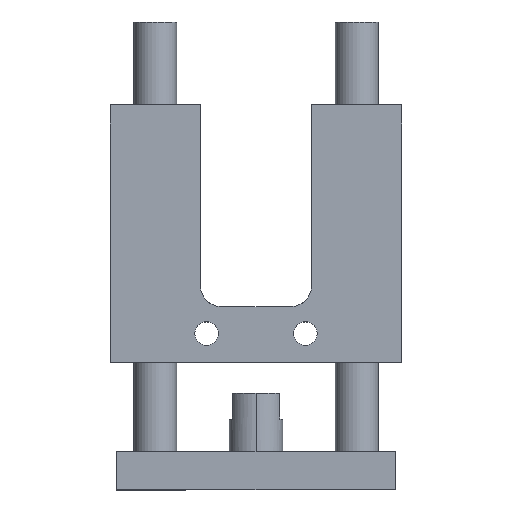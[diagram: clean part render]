
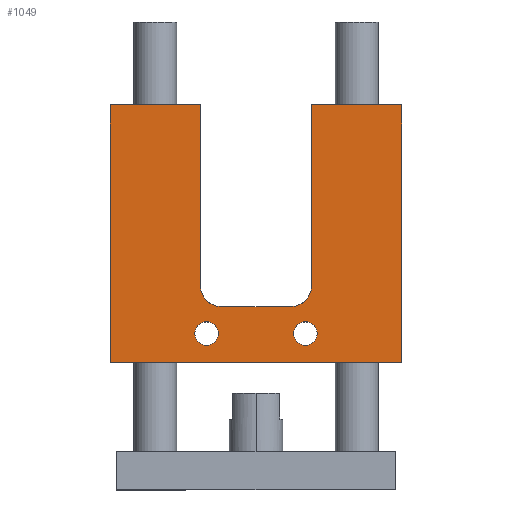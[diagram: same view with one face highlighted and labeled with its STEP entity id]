
A CAD part, top view. The second image highlights one B-rep face of the part: STEP entity #1049.
In plain terms, the highlighted planar face has unit normal (0, 0, 1).
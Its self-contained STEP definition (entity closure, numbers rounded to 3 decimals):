
#28 = VECTOR ( 'NONE', #2209, 1000. ) ;
#99 = AXIS2_PLACEMENT_3D ( 'NONE', #3711, #438, #462 ) ;
#111 = CARTESIAN_POINT ( 'NONE',  ( 0., 60., 30. ) ) ;
#114 = LINE ( 'NONE', #4428, #739 ) ;
#127 = ORIENTED_EDGE ( 'NONE', *, *, #2124, .T. ) ;
#178 = VERTEX_POINT ( 'NONE', #2185 ) ;
#190 = VERTEX_POINT ( 'NONE', #3649 ) ;
#247 = DIRECTION ( 'NONE',  ( -1., 0., 0. ) ) ;
#275 = CIRCLE ( 'NONE', #2193, 2.75 ) ;
#293 = EDGE_CURVE ( 'NONE', #178, #2310, #1925, .T. ) ;
#295 = ORIENTED_EDGE ( 'NONE', *, *, #3594, .T. ) ;
#358 = DIRECTION ( 'NONE',  ( 1., 0., 0. ) ) ;
#422 = CIRCLE ( 'NONE', #1186, 5. ) ;
#436 = LINE ( 'NONE', #4021, #28 ) ;
#438 = DIRECTION ( 'NONE',  ( 0., 0., 1. ) ) ;
#462 = DIRECTION ( 'NONE',  ( 1., 0., 0. ) ) ;
#588 = VECTOR ( 'NONE', #967, 1000. ) ;
#602 = VERTEX_POINT ( 'NONE', #111 ) ;
#656 = DIRECTION ( 'NONE',  ( 1., 0., 0. ) ) ;
#668 = CIRCLE ( 'NONE', #2339, 5. ) ;
#739 = VECTOR ( 'NONE', #1953, 1000. ) ;
#752 = CARTESIAN_POINT ( 'NONE',  ( 26., 18., 30. ) ) ;
#764 = LINE ( 'NONE', #2925, #1417 ) ;
#832 = ORIENTED_EDGE ( 'NONE', *, *, #4700, .T. ) ;
#845 = CARTESIAN_POINT ( 'NONE',  ( 45.5, 6.75, 30. ) ) ;
#865 = VERTEX_POINT ( 'NONE', #2824 ) ;
#894 = CIRCLE ( 'NONE', #2893, 2.75 ) ;
#897 = VERTEX_POINT ( 'NONE', #2162 ) ;
#921 = CARTESIAN_POINT ( 'NONE',  ( 0., 0., 30. ) ) ;
#927 = CARTESIAN_POINT ( 'NONE',  ( 68., 0., 30. ) ) ;
#967 = DIRECTION ( 'NONE',  ( -1., 0., 0. ) ) ;
#1049 = ADVANCED_FACE ( 'NONE', ( #1471, #2177, #3661 ), #4056, .F. ) ;
#1050 = EDGE_CURVE ( 'NONE', #602, #2899, #764, .T. ) ;
#1165 = DIRECTION ( 'NONE',  ( -1., 0., 0. ) ) ;
#1186 = AXIS2_PLACEMENT_3D ( 'NONE', #752, #3644, #4016 ) ;
#1276 = CARTESIAN_POINT ( 'NONE',  ( 0., 0., 30. ) ) ;
#1309 = DIRECTION ( 'NONE',  ( 1., 0., 0. ) ) ;
#1319 = LINE ( 'NONE', #2451, #588 ) ;
#1357 = LINE ( 'NONE', #1276, #1498 ) ;
#1365 = DIRECTION ( 'NONE',  ( 0., 0., 1. ) ) ;
#1417 = VECTOR ( 'NONE', #3322, 1000. ) ;
#1442 = EDGE_CURVE ( 'NONE', #190, #3659, #275, .T. ) ;
#1471 = FACE_BOUND ( 'NONE', #3751, .T. ) ;
#1498 = VECTOR ( 'NONE', #656, 1000. ) ;
#1635 = CARTESIAN_POINT ( 'NONE',  ( 21., 60., 30. ) ) ;
#1662 = EDGE_CURVE ( 'NONE', #2310, #178, #894, .T. ) ;
#1673 = ORIENTED_EDGE ( 'NONE', *, *, #1442, .F. ) ;
#1772 = EDGE_CURVE ( 'NONE', #4336, #897, #668, .T. ) ;
#1830 = ORIENTED_EDGE ( 'NONE', *, *, #1772, .T. ) ;
#1925 = CIRCLE ( 'NONE', #99, 2.75 ) ;
#1945 = EDGE_CURVE ( 'NONE', #3659, #190, #2738, .T. ) ;
#1953 = DIRECTION ( 'NONE',  ( -1., 0., 0. ) ) ;
#2063 = EDGE_CURVE ( 'NONE', #2899, #2983, #1357, .T. ) ;
#2070 = DIRECTION ( 'NONE',  ( 0., 0., -1. ) ) ;
#2071 = EDGE_CURVE ( 'NONE', #2983, #865, #3200, .T. ) ;
#2082 = DIRECTION ( 'NONE',  ( 0., 1., 0. ) ) ;
#2124 = EDGE_CURVE ( 'NONE', #3063, #4336, #2471, .T. ) ;
#2162 = CARTESIAN_POINT ( 'NONE',  ( 42., 13., 30. ) ) ;
#2177 = FACE_BOUND ( 'NONE', #3976, .T. ) ;
#2185 = CARTESIAN_POINT ( 'NONE',  ( 25.25, 6.75, 30. ) ) ;
#2193 = AXIS2_PLACEMENT_3D ( 'NONE', #2270, #3636, #358 ) ;
#2209 = DIRECTION ( 'NONE',  ( 0., 1., 0. ) ) ;
#2232 = ORIENTED_EDGE ( 'NONE', *, *, #4500, .T. ) ;
#2242 = DIRECTION ( 'NONE',  ( 0., 0., -1. ) ) ;
#2258 = AXIS2_PLACEMENT_3D ( 'NONE', #845, #2328, #3414 ) ;
#2270 = CARTESIAN_POINT ( 'NONE',  ( 45.5, 6.75, 30. ) ) ;
#2310 = VERTEX_POINT ( 'NONE', #3739 ) ;
#2328 = DIRECTION ( 'NONE',  ( 0., 0., 1. ) ) ;
#2339 = AXIS2_PLACEMENT_3D ( 'NONE', #2476, #2070, #247 ) ;
#2428 = CARTESIAN_POINT ( 'NONE',  ( 68., 0., 30. ) ) ;
#2451 = CARTESIAN_POINT ( 'NONE',  ( 21., 13., 30. ) ) ;
#2471 = LINE ( 'NONE', #4219, #4557 ) ;
#2476 = CARTESIAN_POINT ( 'NONE',  ( 42., 18., 30. ) ) ;
#2523 = ORIENTED_EDGE ( 'NONE', *, *, #1945, .F. ) ;
#2634 = CARTESIAN_POINT ( 'NONE',  ( 47., 18., 30. ) ) ;
#2738 = CIRCLE ( 'NONE', #2258, 2.75 ) ;
#2744 = LINE ( 'NONE', #3313, #3175 ) ;
#2769 = ORIENTED_EDGE ( 'NONE', *, *, #2063, .T. ) ;
#2824 = CARTESIAN_POINT ( 'NONE',  ( 68., 60., 30. ) ) ;
#2840 = CARTESIAN_POINT ( 'NONE',  ( 47., 60., 30. ) ) ;
#2893 = AXIS2_PLACEMENT_3D ( 'NONE', #4632, #1365, #1309 ) ;
#2899 = VERTEX_POINT ( 'NONE', #921 ) ;
#2925 = CARTESIAN_POINT ( 'NONE',  ( 0., 0., 30. ) ) ;
#2970 = EDGE_CURVE ( 'NONE', #897, #4419, #1319, .T. ) ;
#2983 = VERTEX_POINT ( 'NONE', #2428 ) ;
#3063 = VERTEX_POINT ( 'NONE', #2840 ) ;
#3175 = VECTOR ( 'NONE', #4194, 1000. ) ;
#3200 = LINE ( 'NONE', #927, #4698 ) ;
#3257 = ORIENTED_EDGE ( 'NONE', *, *, #2071, .T. ) ;
#3313 = CARTESIAN_POINT ( 'NONE',  ( 47., 60., 30. ) ) ;
#3322 = DIRECTION ( 'NONE',  ( 0., -1., 0. ) ) ;
#3327 = AXIS2_PLACEMENT_3D ( 'NONE', #4427, #2242, #1165 ) ;
#3365 = VERTEX_POINT ( 'NONE', #4581 ) ;
#3408 = VERTEX_POINT ( 'NONE', #1635 ) ;
#3414 = DIRECTION ( 'NONE',  ( 1., 0., 0. ) ) ;
#3501 = CARTESIAN_POINT ( 'NONE',  ( 26., 13., 30. ) ) ;
#3528 = DIRECTION ( 'NONE',  ( 0., -1., 0. ) ) ;
#3594 = EDGE_CURVE ( 'NONE', #865, #3063, #2744, .T. ) ;
#3636 = DIRECTION ( 'NONE',  ( 0., 0., 1. ) ) ;
#3644 = DIRECTION ( 'NONE',  ( 0., 0., -1. ) ) ;
#3649 = CARTESIAN_POINT ( 'NONE',  ( 42.75, 6.75, 30. ) ) ;
#3659 = VERTEX_POINT ( 'NONE', #3829 ) ;
#3661 = FACE_OUTER_BOUND ( 'NONE', #3667, .T. ) ;
#3667 = EDGE_LOOP ( 'NONE', ( #4163, #2769, #3257, #295, #127, #1830, #4066, #2232, #3788, #832 ) ) ;
#3711 = CARTESIAN_POINT ( 'NONE',  ( 22.5, 6.75, 30. ) ) ;
#3719 = ORIENTED_EDGE ( 'NONE', *, *, #293, .F. ) ;
#3739 = CARTESIAN_POINT ( 'NONE',  ( 19.75, 6.75, 30. ) ) ;
#3751 = EDGE_LOOP ( 'NONE', ( #2523, #1673 ) ) ;
#3788 = ORIENTED_EDGE ( 'NONE', *, *, #3970, .T. ) ;
#3829 = CARTESIAN_POINT ( 'NONE',  ( 48.25, 6.75, 30. ) ) ;
#3970 = EDGE_CURVE ( 'NONE', #3365, #3408, #436, .T. ) ;
#3976 = EDGE_LOOP ( 'NONE', ( #3719, #4484 ) ) ;
#4016 = DIRECTION ( 'NONE',  ( -1., 0., 0. ) ) ;
#4021 = CARTESIAN_POINT ( 'NONE',  ( 21., 60., 30. ) ) ;
#4056 = PLANE ( 'NONE',  #3327 ) ;
#4066 = ORIENTED_EDGE ( 'NONE', *, *, #2970, .T. ) ;
#4163 = ORIENTED_EDGE ( 'NONE', *, *, #1050, .T. ) ;
#4194 = DIRECTION ( 'NONE',  ( -1., 0., 0. ) ) ;
#4219 = CARTESIAN_POINT ( 'NONE',  ( 47., 60., 30. ) ) ;
#4336 = VERTEX_POINT ( 'NONE', #2634 ) ;
#4419 = VERTEX_POINT ( 'NONE', #3501 ) ;
#4427 = CARTESIAN_POINT ( 'NONE',  ( 0., 0., 30. ) ) ;
#4428 = CARTESIAN_POINT ( 'NONE',  ( 0., 60., 30. ) ) ;
#4484 = ORIENTED_EDGE ( 'NONE', *, *, #1662, .F. ) ;
#4500 = EDGE_CURVE ( 'NONE', #4419, #3365, #422, .T. ) ;
#4557 = VECTOR ( 'NONE', #3528, 1000. ) ;
#4581 = CARTESIAN_POINT ( 'NONE',  ( 21., 18., 30. ) ) ;
#4632 = CARTESIAN_POINT ( 'NONE',  ( 22.5, 6.75, 30. ) ) ;
#4698 = VECTOR ( 'NONE', #2082, 1000. ) ;
#4700 = EDGE_CURVE ( 'NONE', #3408, #602, #114, .T. ) ;
